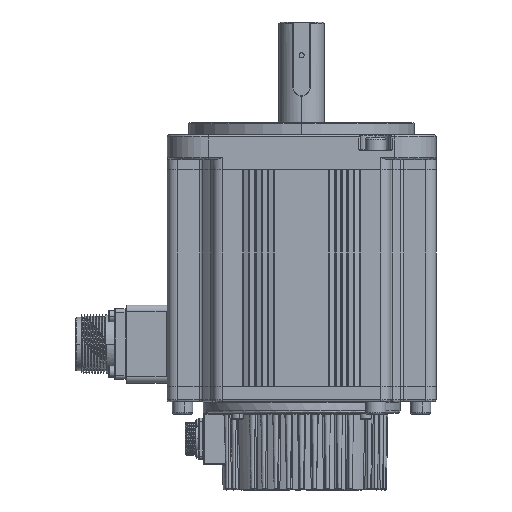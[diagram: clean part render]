
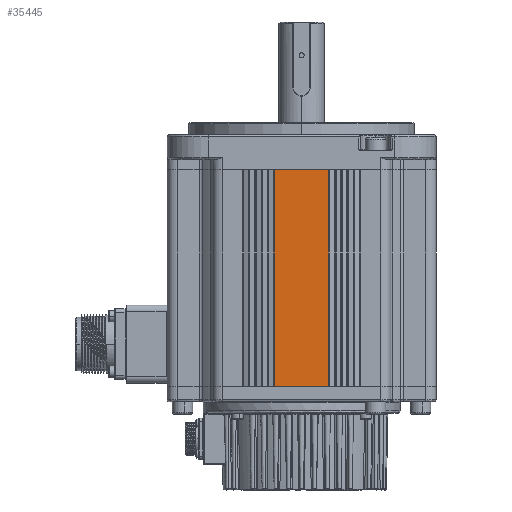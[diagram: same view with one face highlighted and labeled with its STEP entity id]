
A CAD part, left-side view. The second image highlights one B-rep face of the part: STEP entity #35445.
In plain terms, the highlighted planar face has unit normal (-1, 0, 0) as drawn and (1, 0, 0) by its records, which use the part's own axes.
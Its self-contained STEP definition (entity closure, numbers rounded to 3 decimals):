
#16 = ORIENTED_EDGE ( 'NONE', *, *, #45348, .T. ) ;
#337 = CARTESIAN_POINT ( 'NONE',  ( 65.5, 13.2, 0. ) ) ;
#4475 = LINE ( 'NONE', #93367, #37900 ) ;
#8739 = FACE_OUTER_BOUND ( 'NONE', #70211, .T. ) ;
#10376 = EDGE_CURVE ( 'NONE', #108259, #42528, #56152, .T. ) ;
#15814 = VECTOR ( 'NONE', #82069, 1000. ) ;
#16000 = DIRECTION ( 'NONE',  ( 0., 0., 1. ) ) ;
#26562 = CARTESIAN_POINT ( 'NONE',  ( 65.5, 13.2, 105.5 ) ) ;
#28203 = DIRECTION ( 'NONE',  ( 0., 1., 0. ) ) ;
#35445 = ADVANCED_FACE ( 'NONE', ( #8739 ), #106635, .F. ) ;
#37900 = VECTOR ( 'NONE', #28203, 1000. ) ;
#42528 = VERTEX_POINT ( 'NONE', #26562 ) ;
#44378 = EDGE_CURVE ( 'NONE', #68084, #70690, #122793, .T. ) ;
#45348 = EDGE_CURVE ( 'NONE', #70690, #108259, #129046, .T. ) ;
#52284 = CARTESIAN_POINT ( 'NONE',  ( 65.5, -13.2, 105.5 ) ) ;
#52617 = EDGE_CURVE ( 'NONE', #68084, #42528, #4475, .T. ) ;
#55235 = CARTESIAN_POINT ( 'NONE',  ( 65.5, 13.5, 0. ) ) ;
#55691 = DIRECTION ( 'NONE',  ( 0., 1., 0. ) ) ;
#56152 = LINE ( 'NONE', #137775, #15814 ) ;
#58944 = AXIS2_PLACEMENT_3D ( 'NONE', #107119, #140348, #16000 ) ;
#66863 = CARTESIAN_POINT ( 'NONE',  ( 65.5, -13.2, 0. ) ) ;
#68084 = VERTEX_POINT ( 'NONE', #89201 ) ;
#69234 = ORIENTED_EDGE ( 'NONE', *, *, #10376, .T. ) ;
#69539 = VECTOR ( 'NONE', #55691, 1000. ) ;
#70211 = EDGE_LOOP ( 'NONE', ( #16, #69234, #132282, #83446 ) ) ;
#70690 = VERTEX_POINT ( 'NONE', #66863 ) ;
#82069 = DIRECTION ( 'NONE',  ( 0., 0., 1. ) ) ;
#83446 = ORIENTED_EDGE ( 'NONE', *, *, #44378, .T. ) ;
#86060 = VECTOR ( 'NONE', #131566, 1000. ) ;
#89201 = CARTESIAN_POINT ( 'NONE',  ( 65.5, -13.2, 105.5 ) ) ;
#93367 = CARTESIAN_POINT ( 'NONE',  ( 65.5, 13.5, 105.5 ) ) ;
#106635 = PLANE ( 'NONE',  #58944 ) ;
#107119 = CARTESIAN_POINT ( 'NONE',  ( 65.5, 13.5, 105.5 ) ) ;
#108259 = VERTEX_POINT ( 'NONE', #337 ) ;
#122793 = LINE ( 'NONE', #52284, #86060 ) ;
#129046 = LINE ( 'NONE', #55235, #69539 ) ;
#131566 = DIRECTION ( 'NONE',  ( 0., 0., -1. ) ) ;
#132282 = ORIENTED_EDGE ( 'NONE', *, *, #52617, .F. ) ;
#137775 = CARTESIAN_POINT ( 'NONE',  ( 65.5, 13.2, 105.5 ) ) ;
#140348 = DIRECTION ( 'NONE',  ( -1., 0., 0. ) ) ;
